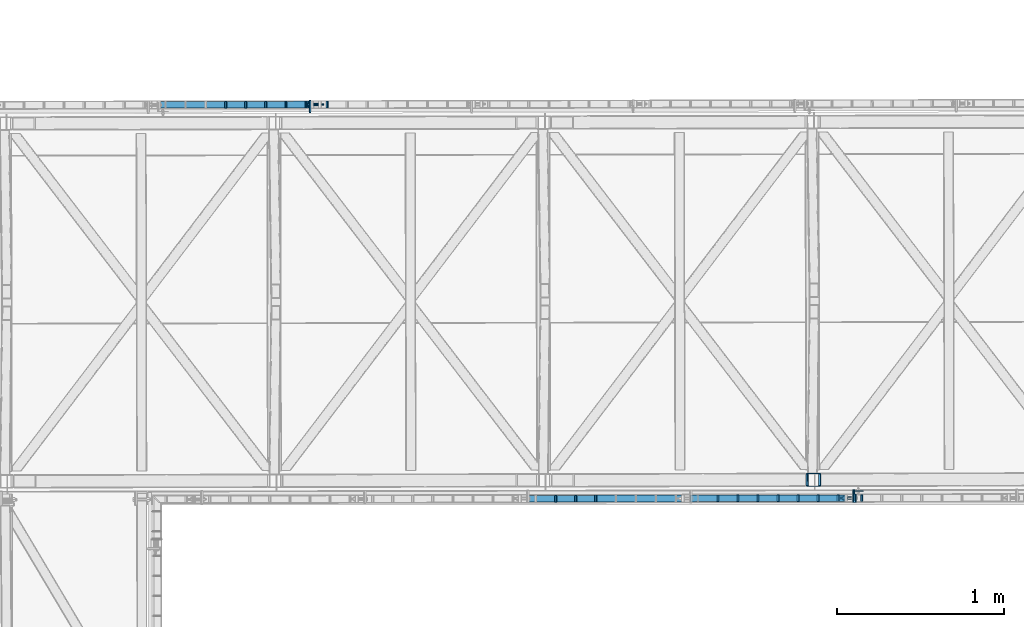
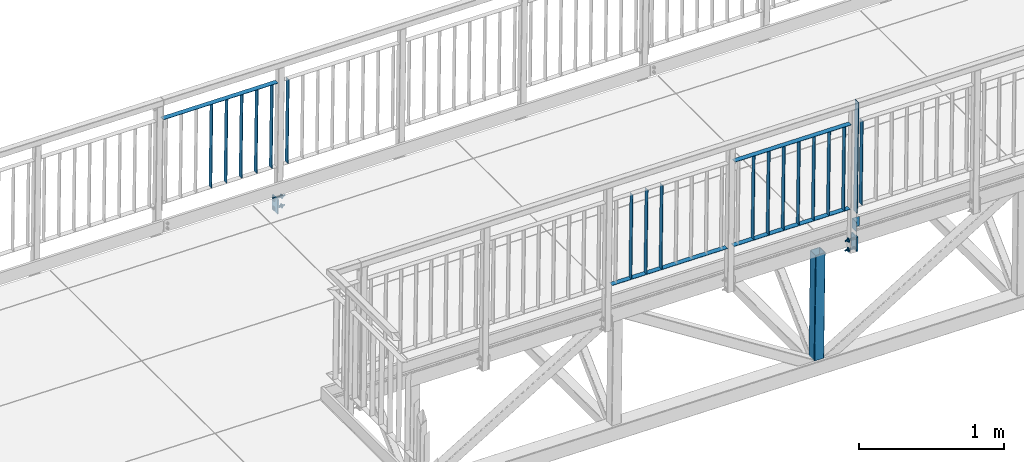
# One storey, part 115 of 169: 26 discrete accessories, 2 mechanical fasteners, 3 elements without a shape of their own.
"""IFC2X3 building model written with IfcOpenShell, lengths in millimetres."""

from ifc_helpers import new_model, si_unit, frame, origin_with_axes, origin_2d_with_axis, place, context, subcontext, project, spatial, polyline, rectangle, hollow_rectangle, circle, l_section, outline, extrude, boolean, clip, halfspace, source, transform, mapped, material, type_object, element, aggregate, save


model = new_model("IFC2X3")

# Units and contexts
model_context = context("Model", 3, precision=1e-05, world=origin_with_axes())
body_context = subcontext(model_context, "Body", "Model", "MODEL_VIEW")
ifc_project = project(units=[si_unit("LENGTHUNIT", "METRE", prefix="MILLI"), si_unit("AREAUNIT", "SQUARE_METRE"), si_unit("VOLUMEUNIT", "CUBIC_METRE"), si_unit("MASSUNIT", "GRAM", prefix="KILO"), si_unit("TIMEUNIT", "SECOND"), si_unit("PLANEANGLEUNIT", "RADIAN"), si_unit("SOLIDANGLEUNIT", "STERADIAN"), si_unit("THERMODYNAMICTEMPERATUREUNIT", "DEGREE_CELSIUS"), si_unit("LUMINOUSINTENSITYUNIT", "LUMEN")], contexts=[model_context])

# Site, building, storey
site_placement = place(None, origin_with_axes())
site = spatial("IfcSite", under=ifc_project, at=site_placement, Name="Undefined", CompositionType="ELEMENT")
building_placement = place(site_placement, origin_with_axes())
building = spatial("IfcBuilding", under=site, at=building_placement, Name="Undefined", CompositionType="ELEMENT")
storey_placement = place(building_placement, origin_with_axes())
storey = spatial("IfcBuildingStorey", under=building, at=storey_placement, Name="Undefined", CompositionType="ELEMENT", Elevation=0.0)

# Assembly, discrete accessory
assembly_1_placement = place(storey_placement, origin_with_axes())
assembly_1 = element("IfcElementAssembly", 1, at=assembly_1_placement, inside=storey, Name="Steel Assembly", AssemblyPlace="NOTDEFINED", PredefinedType="RIGID_FRAME")
ifc_material_1 = material(Name="STEEL/S235")
discrete_accessory_type_1 = type_object("IfcDiscreteAccessoryType", Name="BLACHA")
discrete_accessory_1_placement = place(assembly_1_placement, frame((11154.2828127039, 2325.81905754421, 13812.4025417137), z_axis=(0.9999174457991, 0.00186469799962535, -0.0127131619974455), x_axis=(-0.0018648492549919, 0.999998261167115, -4.2996762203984e-08)))
discrete_accessory_1 = element("IfcDiscreteAccessory", 2, at=discrete_accessory_1_placement, type_object=discrete_accessory_type_1, material=ifc_material_1, Name="BLACHA", ObjectType="BL10*120", context=body_context, shape_type="SweptSolid", body=[
    extrude(outline(polyline([(-5.35749222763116e-11, -59.9999999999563), (5.3567816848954e-11, 59.9999999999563), (75.0000002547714, 59.9999999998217), (75.0000002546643, -60.0000000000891), (-5.35749222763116e-11, -59.9999999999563)])), frame((-1.81898926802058e-12, -1.18000176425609e-16, -5.00000000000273), z_axis=(0.0, 0.0, 1.0), x_axis=(1.0, 0.0, 0.0)), (0.0, 0.0, 1.0), 10.0),
])

assembly_2_placement = place(storey_placement, origin_with_axes())
assembly_2 = element("IfcElementAssembly", 3, at=assembly_2_placement, inside=storey, Name="Steel Assembly", AssemblyPlace="NOTDEFINED", PredefinedType="RIGID_FRAME")
discrete_accessory_2_placement = place(assembly_2_placement, frame((14408.0866472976, -3.11713038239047, 14030.1093879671), z_axis=(0.9999174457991, 0.00186469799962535, -0.0127131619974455), x_axis=(-0.0018648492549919, 0.999998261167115, -4.2996762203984e-08)))
discrete_accessory_2 = element("IfcDiscreteAccessory", 4, at=discrete_accessory_2_placement, type_object=discrete_accessory_type_1, material=ifc_material_1, Name="BLACHA", ObjectType="BL5*50", context=body_context, shape_type="SweptSolid", body=[
    extrude(outline(polyline([(0.0, 0.0), (50.0000000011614, 3.27418092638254e-11), (50.0000000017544, 926.000000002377), (3.10365066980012e-08, 926.000000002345), (0.0, 0.0)])), frame((6.80888809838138e-19, -2.87858853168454e-21, -2.49999999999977), z_axis=(0.0, 0.0, 1.0), x_axis=(1.0, 0.0, 0.0)), (0.0, 0.0, 1.0), 5.0),
])

# Discrete accessory
discrete_accessory_3_placement = place(assembly_1_placement, frame((14407.1538739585, 71.8812501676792, 13771.0985326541), z_axis=(-0.999917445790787, -0.00186469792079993, 0.0127131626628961), x_axis=(0.00186484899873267, -0.999998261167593, 4.28757666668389e-08)))
discrete_accessory_3 = element("IfcDiscreteAccessory", 5, at=discrete_accessory_3_placement, type_object=discrete_accessory_type_1, material=ifc_material_1, Name="BLACHA", ObjectType="BL10*120", context=body_context, shape_type="SweptSolid", body=[
    extrude(outline(polyline([(75.0000002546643, -60.0000000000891), (-5.35749222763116e-11, -59.9999999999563), (5.3567816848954e-11, 59.9999999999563), (75.0000002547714, 59.9999999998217), (75.0000002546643, -60.0000000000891)])), frame((-1.81898926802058e-12, -1.18000176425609e-16, -5.00000000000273), z_axis=(0.0, 0.0, 1.0), x_axis=(1.0, 0.0, 0.0)), (0.0, 0.0, 1.0), 10.0),
])

discrete_accessory_type_2 = type_object("IfcDiscreteAccessoryType", Name="BEAM")
discrete_accessory_4_placement = place(assembly_2_placement, frame((14434.5091746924, 34.9322069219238, 13950.7661591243), z_axis=(0.9999174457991, 0.00186469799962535, -0.0127131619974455), x_axis=(-0.012713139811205, -2.37511238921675e-05, -0.999919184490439)))
discrete_accessory_4 = element("IfcDiscreteAccessory", 6, at=discrete_accessory_4_placement, type_object=discrete_accessory_type_2, material=ifc_material_1, Name="BEAM", ObjectType="L60*3", context=body_context, shape_type="SweptSolid", body=[
    extrude(l_section(Depth=60.0, Width=60.0, Thickness=3.0, FilletRadius=4.5, at=origin_2d_with_axis()), frame((79.9999999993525, -4.5446979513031e-13, -4.53637127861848e-13), z_axis=(-1.0, -3.46944695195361e-18, -1.38777878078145e-17), x_axis=(1.73472347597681e-18, -1.0, 0.0)), (0.0, 0.0, 1.0), 80.0),
])

ifc_material_2 = material(Name="STEEL/S355")
discrete_accessory_5_placement = place(assembly_1_placement, frame((14159.4514257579, 131.419385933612, 12774.1655168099), z_axis=(-0.999917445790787, -0.00186469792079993, 0.0127131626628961), x_axis=(0.012713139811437, 2.3750999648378e-05, 0.999919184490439)))
discrete_accessory_5 = element("IfcDiscreteAccessory", 7, at=discrete_accessory_5_placement, type_object=discrete_accessory_type_2, material=ifc_material_2, Name="BEAM", ObjectType="K80/4", context=body_context, shape_type="Clipping", body=[
    clip(clip(extrude(hollow_rectangle(XDim=80.0, YDim=80.0, WallThickness=4.0, InnerFilletRadius=4.0, OuterFilletRadius=8.0, at=origin_2d_with_axis()), frame((940.000112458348, 4.54747487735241e-13, 0.0), z_axis=(-1.0, -3.46944695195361e-18, -1.38777878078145e-17), x_axis=(1.73472347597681e-18, -1.0, 0.0)), (0.0, 0.0, 1.0), 880.0), halfspace(frame((940.000112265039, -6.72889655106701e-09, 999.999999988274), z_axis=(-1.0, -3.46944695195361e-18, -1.38777878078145e-17), x_axis=(1.73472347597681e-18, -1.0, 0.0)), True)), halfspace(frame((60.0001122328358, 8.14088707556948e-09, 1000.00000001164), z_axis=(1.0, 0.0, 0.0), x_axis=(0.0, 1.0, 0.0)), True)),
])

aggregate(assembly_1, [discrete_accessory_1, discrete_accessory_3, discrete_accessory_5])

discrete_accessory_type_3 = type_object("IfcDiscreteAccessoryType", Name="PORĘCZ")
discrete_accessory_6_placement = place(assembly_2_placement, frame((14459.4416410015, 21.9787216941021, 14930.5286761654), z_axis=(-0.0018648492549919, 0.999998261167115, -4.2996762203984e-08), x_axis=(-0.012713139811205, -2.37511238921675e-05, -0.999919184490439)))
discrete_accessory_6 = element("IfcDiscreteAccessory", 8, at=discrete_accessory_6_placement, type_object=discrete_accessory_type_3, material=ifc_material_1, Name="PORĘCZ", ObjectType="BL40*3", context=body_context, shape_type="Clipping", body=[
    clip(clip(extrude(rectangle(XDim=3.0, YDim=40.0, at=origin_2d_with_axis()), frame((848.500000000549, 1.47191286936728e-15, -8.89750592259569e-16), z_axis=(-1.0, -3.46944695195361e-18, -1.38777878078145e-17), x_axis=(1.73472347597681e-18, -1.0, 0.0)), (0.0, 0.0, 1.0), 702.0), halfspace(frame((848.499999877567, 4.522007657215e-09, 1000.00000000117), z_axis=(-1.0, -3.46944695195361e-18, -1.38777878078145e-17), x_axis=(1.73472347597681e-18, -1.0, 0.0)), True)), halfspace(frame((146.499999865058, 4.97311702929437e-09, 1000.00000000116), z_axis=(1.0, 0.0, 0.0), x_axis=(0.0, 1.0, 0.0)), True)),
])

discrete_accessory_7_placement = place(assembly_2_placement, frame((14412.7508165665, 21.8916439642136, 14786.1105939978), z_axis=(-0.012713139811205, -2.37511238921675e-05, -0.999919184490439), x_axis=(-0.999917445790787, -0.00186469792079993, 0.0127131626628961)))
discrete_accessory_7 = element("IfcDiscreteAccessory", 9, at=discrete_accessory_7_placement, type_object=discrete_accessory_type_3, material=ifc_material_1, Name="PORĘCZ", ObjectType="BL40*3", context=body_context, shape_type="CSG", body=[
    boolean("DIFFERENCE", boolean("DIFFERENCE", extrude(outline(polyline([(972.599252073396, -19.9999999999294), (47.599252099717, -19.9999999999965), (47.5992520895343, 20.0000000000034), (972.599252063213, 20.0000000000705), (972.599252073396, -19.9999999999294)])), frame((1.81898940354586e-12, -1.77635442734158e-15, -1.50000000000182), z_axis=(0.0, 0.0, 1.0), x_axis=(1.0, 0.0, 0.0)), (0.0, 0.0, 1.0), 3.0), extrude(rectangle(XDim=51.0, YDim=51.0, at=origin_2d_with_axis()), frame((998.099252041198, 3.51939400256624e-08, -140.00000001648), z_axis=(0.0, 0.0, 1.0), x_axis=(1.0, 0.0, 0.0)), (0.0, 0.0, 1.0), 280.0)), halfspace(frame((47.5992518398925, 1000.00000001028, -5.15865394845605e-09), z_axis=(1.0, 0.0, 0.0), x_axis=(-2.54700353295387e-10, 0.0, -1.0)), True)),
])

discrete_accessory_8_placement = place(assembly_2_placement, frame((14320.0524011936, 21.7187813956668, 14932.3009004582), z_axis=(-0.0018648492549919, 0.999998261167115, -4.2996762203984e-08), x_axis=(-0.012713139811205, -2.37511238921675e-05, -0.999919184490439)))
discrete_accessory_8 = element("IfcDiscreteAccessory", 10, at=discrete_accessory_8_placement, type_object=discrete_accessory_type_3, material=ifc_material_1, Name="PORĘCZ", ObjectType="BL40*3", context=body_context, shape_type="Clipping", body=[
    clip(clip(extrude(rectangle(XDim=3.0, YDim=40.0, at=origin_2d_with_axis()), frame((848.500000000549, 1.47191286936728e-15, -8.89750592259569e-16), z_axis=(-1.0, -3.46944695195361e-18, -1.38777878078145e-17), x_axis=(1.73472347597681e-18, -1.0, 0.0)), (0.0, 0.0, 1.0), 702.0), halfspace(frame((848.499999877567, 4.522007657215e-09, 1000.00000000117), z_axis=(-1.0, -3.46944695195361e-18, -1.38777878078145e-17), x_axis=(1.73472347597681e-18, -1.0, 0.0)), True)), halfspace(frame((146.499999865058, 4.97311702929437e-09, 1000.00000000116), z_axis=(1.0, 0.0, 0.0), x_axis=(0.0, 1.0, 0.0)), True)),
])

discrete_accessory_9_placement = place(assembly_2_placement, frame((14200.0623076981, 21.4950176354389, 14933.826479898), z_axis=(-0.0018648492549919, 0.999998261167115, -4.2996762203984e-08), x_axis=(-0.012713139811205, -2.37511238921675e-05, -0.999919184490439)))
discrete_accessory_9 = element("IfcDiscreteAccessory", 11, at=discrete_accessory_9_placement, type_object=discrete_accessory_type_3, material=ifc_material_1, Name="PORĘCZ", ObjectType="BL40*3", context=body_context, shape_type="Clipping", body=[
    clip(clip(extrude(rectangle(XDim=3.0, YDim=40.0, at=origin_2d_with_axis()), frame((848.500000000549, 1.47191286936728e-15, -8.89750592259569e-16), z_axis=(-1.0, -3.46944695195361e-18, -1.38777878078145e-17), x_axis=(1.73472347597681e-18, -1.0, 0.0)), (0.0, 0.0, 1.0), 702.0), halfspace(frame((848.499999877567, 4.522007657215e-09, 1000.00000000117), z_axis=(-1.0, -3.46944695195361e-18, -1.38777878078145e-17), x_axis=(1.73472347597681e-18, -1.0, 0.0)), True)), halfspace(frame((146.499999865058, 4.97311702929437e-09, 1000.00000000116), z_axis=(1.0, 0.0, 0.0), x_axis=(0.0, 1.0, 0.0)), True)),
])

discrete_accessory_10_placement = place(assembly_2_placement, frame((14080.0722142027, 21.2712538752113, 14935.3520593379), z_axis=(-0.0018648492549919, 0.999998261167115, -4.2996762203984e-08), x_axis=(-0.012713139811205, -2.37511238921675e-05, -0.999919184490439)))
discrete_accessory_10 = element("IfcDiscreteAccessory", 12, at=discrete_accessory_10_placement, type_object=discrete_accessory_type_3, material=ifc_material_1, Name="PORĘCZ", ObjectType="BL40*3", context=body_context, shape_type="Clipping", body=[
    clip(clip(extrude(rectangle(XDim=3.0, YDim=40.0, at=origin_2d_with_axis()), frame((848.500000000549, 1.47191286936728e-15, -8.89750592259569e-16), z_axis=(-1.0, -3.46944695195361e-18, -1.38777878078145e-17), x_axis=(1.73472347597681e-18, -1.0, 0.0)), (0.0, 0.0, 1.0), 702.0), halfspace(frame((848.499999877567, 4.522007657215e-09, 1000.00000000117), z_axis=(-1.0, -3.46944695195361e-18, -1.38777878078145e-17), x_axis=(1.73472347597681e-18, -1.0, 0.0)), True)), halfspace(frame((146.499999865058, 4.97311702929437e-09, 1000.00000000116), z_axis=(1.0, 0.0, 0.0), x_axis=(0.0, 1.0, 0.0)), True)),
])

discrete_accessory_11_placement = place(assembly_2_placement, frame((13960.0821207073, 21.0474901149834, 14936.8776387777), z_axis=(-0.0018648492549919, 0.999998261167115, -4.2996762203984e-08), x_axis=(-0.012713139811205, -2.37511238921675e-05, -0.999919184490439)))
discrete_accessory_11 = element("IfcDiscreteAccessory", 13, at=discrete_accessory_11_placement, type_object=discrete_accessory_type_3, material=ifc_material_1, Name="PORĘCZ", ObjectType="BL40*3", context=body_context, shape_type="Clipping", body=[
    clip(clip(extrude(rectangle(XDim=3.0, YDim=40.0, at=origin_2d_with_axis()), frame((848.500000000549, 1.47191286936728e-15, -8.89750592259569e-16), z_axis=(-1.0, -3.46944695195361e-18, -1.38777878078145e-17), x_axis=(1.73472347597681e-18, -1.0, 0.0)), (0.0, 0.0, 1.0), 702.0), halfspace(frame((848.499999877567, 4.522007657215e-09, 1000.00000000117), z_axis=(-1.0, -3.46944695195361e-18, -1.38777878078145e-17), x_axis=(1.73472347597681e-18, -1.0, 0.0)), True)), halfspace(frame((146.499999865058, 4.97311702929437e-09, 1000.00000000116), z_axis=(1.0, 0.0, 0.0), x_axis=(0.0, 1.0, 0.0)), True)),
])

discrete_accessory_12_placement = place(assembly_2_placement, frame((13840.0920272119, 20.8237263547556, 14938.4032182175), z_axis=(-0.0018648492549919, 0.999998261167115, -4.2996762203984e-08), x_axis=(-0.012713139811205, -2.37511238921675e-05, -0.999919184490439)))
discrete_accessory_12 = element("IfcDiscreteAccessory", 14, at=discrete_accessory_12_placement, type_object=discrete_accessory_type_3, material=ifc_material_1, Name="PORĘCZ", ObjectType="BL40*3", context=body_context, shape_type="Clipping", body=[
    clip(clip(extrude(rectangle(XDim=3.0, YDim=40.0, at=origin_2d_with_axis()), frame((848.500000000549, 1.47191286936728e-15, -8.89750592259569e-16), z_axis=(-1.0, -3.46944695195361e-18, -1.38777878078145e-17), x_axis=(1.73472347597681e-18, -1.0, 0.0)), (0.0, 0.0, 1.0), 702.0), halfspace(frame((848.499999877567, 4.522007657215e-09, 1000.00000000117), z_axis=(-1.0, -3.46944695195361e-18, -1.38777878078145e-17), x_axis=(1.73472347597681e-18, -1.0, 0.0)), True)), halfspace(frame((146.499999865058, 4.97311702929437e-09, 1000.00000000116), z_axis=(1.0, 0.0, 0.0), x_axis=(0.0, 1.0, 0.0)), True)),
])

discrete_accessory_13_placement = place(assembly_2_placement, frame((13720.1019337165, 20.5999625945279, 14939.9287976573), z_axis=(-0.0018648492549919, 0.999998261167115, -4.2996762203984e-08), x_axis=(-0.012713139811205, -2.37511238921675e-05, -0.999919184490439)))
discrete_accessory_13 = element("IfcDiscreteAccessory", 15, at=discrete_accessory_13_placement, type_object=discrete_accessory_type_3, material=ifc_material_1, Name="PORĘCZ", ObjectType="BL40*3", context=body_context, shape_type="Clipping", body=[
    clip(clip(extrude(rectangle(XDim=3.0, YDim=40.0, at=origin_2d_with_axis()), frame((848.500000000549, 1.47191286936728e-15, -8.89750592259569e-16), z_axis=(-1.0, -3.46944695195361e-18, -1.38777878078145e-17), x_axis=(1.73472347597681e-18, -1.0, 0.0)), (0.0, 0.0, 1.0), 702.0), halfspace(frame((848.499999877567, 4.522007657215e-09, 1000.00000000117), z_axis=(-1.0, -3.46944695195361e-18, -1.38777878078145e-17), x_axis=(1.73472347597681e-18, -1.0, 0.0)), True)), halfspace(frame((146.499999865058, 4.97311702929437e-09, 1000.00000000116), z_axis=(1.0, 0.0, 0.0), x_axis=(0.0, 1.0, 0.0)), True)),
])

discrete_accessory_14_placement = place(assembly_2_placement, frame((13600.1118402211, 20.3761988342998, 14941.4543770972), z_axis=(-0.0018648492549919, 0.999998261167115, -4.2996762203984e-08), x_axis=(-0.012713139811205, -2.37511238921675e-05, -0.999919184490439)))
discrete_accessory_14 = element("IfcDiscreteAccessory", 16, at=discrete_accessory_14_placement, type_object=discrete_accessory_type_3, material=ifc_material_1, Name="PORĘCZ", ObjectType="BL40*3", context=body_context, shape_type="Clipping", body=[
    clip(clip(extrude(rectangle(XDim=3.0, YDim=40.0, at=origin_2d_with_axis()), frame((848.500000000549, 1.47191286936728e-15, -8.89750592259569e-16), z_axis=(-1.0, -3.46944695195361e-18, -1.38777878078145e-17), x_axis=(1.73472347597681e-18, -1.0, 0.0)), (0.0, 0.0, 1.0), 702.0), halfspace(frame((848.499999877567, 4.522007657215e-09, 1000.00000000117), z_axis=(-1.0, -3.46944695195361e-18, -1.38777878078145e-17), x_axis=(1.73472347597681e-18, -1.0, 0.0)), True)), halfspace(frame((146.499999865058, 4.97311702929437e-09, 1000.00000000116), z_axis=(1.0, 0.0, 0.0), x_axis=(0.0, 1.0, 0.0)), True)),
])

discrete_accessory_15_placement = place(assembly_2_placement, frame((14403.7880530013, 21.8748994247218, 14081.1675689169), z_axis=(-0.012713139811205, -2.37511238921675e-05, -0.999919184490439), x_axis=(-0.999917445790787, -0.00186469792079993, 0.0127131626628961)))
discrete_accessory_15 = element("IfcDiscreteAccessory", 17, at=discrete_accessory_15_placement, type_object=discrete_accessory_type_3, material=ifc_material_1, Name="PORĘCZ", ObjectType="BL40*3", context=body_context, shape_type="CSG", body=[
    boolean("DIFFERENCE", boolean("DIFFERENCE", extrude(outline(polyline([(972.599252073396, -19.9999999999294), (47.599252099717, -19.9999999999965), (47.5992520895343, 20.0000000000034), (972.599252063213, 20.0000000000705), (972.599252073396, -19.9999999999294)])), frame((1.81898940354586e-12, -1.77635442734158e-15, -1.50000000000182), z_axis=(0.0, 0.0, 1.0), x_axis=(1.0, 0.0, 0.0)), (0.0, 0.0, 1.0), 3.0), extrude(rectangle(XDim=51.0, YDim=51.0, at=origin_2d_with_axis()), frame((998.099252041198, 3.51939400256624e-08, -140.00000001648), z_axis=(0.0, 0.0, 1.0), x_axis=(1.0, 0.0, 0.0)), (0.0, 0.0, 1.0), 280.0)), halfspace(frame((47.5992518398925, 1000.00000001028, -5.15865394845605e-09), z_axis=(1.0, 0.0, 0.0), x_axis=(-2.54700353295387e-10, 0.0, -1.0)), True)),
])

discrete_accessory_16_placement = place(assembly_2_placement, frame((12869.5729022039, 19.013851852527, 14950.7426037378), z_axis=(-0.0018648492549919, 0.999998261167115, -4.2996762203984e-08), x_axis=(-0.012713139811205, -2.37511238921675e-05, -0.999919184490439)))
discrete_accessory_16 = element("IfcDiscreteAccessory", 18, at=discrete_accessory_16_placement, type_object=discrete_accessory_type_3, material=ifc_material_1, Name="PORĘCZ", ObjectType="BL40*3", context=body_context, shape_type="Clipping", body=[
    clip(clip(extrude(rectangle(XDim=3.0, YDim=40.0, at=origin_2d_with_axis()), frame((848.500000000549, 1.47191286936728e-15, -8.89750592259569e-16), z_axis=(-1.0, -3.46944695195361e-18, -1.38777878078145e-17), x_axis=(1.73472347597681e-18, -1.0, 0.0)), (0.0, 0.0, 1.0), 702.0), halfspace(frame((848.499999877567, 4.522007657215e-09, 1000.00000000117), z_axis=(-1.0, -3.46944695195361e-18, -1.38777878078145e-17), x_axis=(1.73472347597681e-18, -1.0, 0.0)), True)), halfspace(frame((146.499999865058, 4.97311702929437e-09, 1000.00000000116), z_axis=(1.0, 0.0, 0.0), x_axis=(0.0, 1.0, 0.0)), True)),
])

discrete_accessory_17_placement = place(assembly_2_placement, frame((12749.5828087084, 18.7900880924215, 14952.2681831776), z_axis=(-0.0018648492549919, 0.999998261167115, -4.2996762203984e-08), x_axis=(-0.012713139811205, -2.37511238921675e-05, -0.999919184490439)))
discrete_accessory_17 = element("IfcDiscreteAccessory", 19, at=discrete_accessory_17_placement, type_object=discrete_accessory_type_3, material=ifc_material_1, Name="PORĘCZ", ObjectType="BL40*3", context=body_context, shape_type="Clipping", body=[
    clip(clip(extrude(rectangle(XDim=3.0, YDim=40.0, at=origin_2d_with_axis()), frame((848.500000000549, 1.47191286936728e-15, -8.89750592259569e-16), z_axis=(-1.0, -3.46944695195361e-18, -1.38777878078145e-17), x_axis=(1.73472347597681e-18, -1.0, 0.0)), (0.0, 0.0, 1.0), 702.0), halfspace(frame((848.499999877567, 4.522007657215e-09, 1000.00000000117), z_axis=(-1.0, -3.46944695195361e-18, -1.38777878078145e-17), x_axis=(1.73472347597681e-18, -1.0, 0.0)), True)), halfspace(frame((146.499999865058, 4.97311702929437e-09, 1000.00000000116), z_axis=(1.0, 0.0, 0.0), x_axis=(0.0, 1.0, 0.0)), True)),
])

discrete_accessory_18_placement = place(assembly_2_placement, frame((12629.5927152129, 18.5663243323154, 14953.7937626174), z_axis=(-0.0018648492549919, 0.999998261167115, -4.2996762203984e-08), x_axis=(-0.012713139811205, -2.37511238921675e-05, -0.999919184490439)))
discrete_accessory_18 = element("IfcDiscreteAccessory", 20, at=discrete_accessory_18_placement, type_object=discrete_accessory_type_3, material=ifc_material_1, Name="PORĘCZ", ObjectType="BL40*3", context=body_context, shape_type="Clipping", body=[
    clip(clip(extrude(rectangle(XDim=3.0, YDim=40.0, at=origin_2d_with_axis()), frame((848.500000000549, 1.47191286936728e-15, -8.89750592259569e-16), z_axis=(-1.0, -3.46944695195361e-18, -1.38777878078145e-17), x_axis=(1.73472347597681e-18, -1.0, 0.0)), (0.0, 0.0, 1.0), 702.0), halfspace(frame((848.499999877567, 4.522007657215e-09, 1000.00000000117), z_axis=(-1.0, -3.46944695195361e-18, -1.38777878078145e-17), x_axis=(1.73472347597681e-18, -1.0, 0.0)), True)), halfspace(frame((146.499999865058, 4.97311702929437e-09, 1000.00000000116), z_axis=(1.0, 0.0, 0.0), x_axis=(0.0, 1.0, 0.0)), True)),
])

discrete_accessory_19_placement = place(assembly_2_placement, frame((13436.2686803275, 20.0706190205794, 14093.4688149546), z_axis=(-0.012713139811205, -2.37511238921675e-05, -0.999919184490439), x_axis=(-0.999917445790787, -0.00186469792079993, 0.0127131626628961)))
discrete_accessory_19 = element("IfcDiscreteAccessory", 21, at=discrete_accessory_19_placement, type_object=discrete_accessory_type_3, material=ifc_material_1, Name="PORĘCZ", ObjectType="BL40*3", context=body_context, shape_type="CSG", body=[
    boolean("DIFFERENCE", boolean("DIFFERENCE", boolean("DIFFERENCE", extrude(outline(polyline([(972.599252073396, -19.9999999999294), (55.0000000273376, -19.999999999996), (55.0000000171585, 20.000000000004), (972.599252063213, 20.0000000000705), (972.599252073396, -19.9999999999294)])), frame((1.81898940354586e-12, -1.77635442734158e-15, -1.50000000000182), z_axis=(0.0, 0.0, 1.0), x_axis=(1.0, 0.0, 0.0)), (0.0, 0.0, 1.0), 3.0), extrude(rectangle(XDim=51.0, YDim=51.0, at=origin_2d_with_axis()), frame((-5.94487782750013e-08, -4.65977194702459e-09, -139.999999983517), z_axis=(0.0, 0.0, 1.0), x_axis=(1.0, 0.0, 0.0)), (0.0, 0.0, 1.0), 280.0)), extrude(rectangle(XDim=51.0, YDim=51.0, at=origin_2d_with_axis()), frame((998.099252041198, 3.51939400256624e-08, -140.00000001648), z_axis=(0.0, 0.0, 1.0), x_axis=(1.0, 0.0, 0.0)), (0.0, 0.0, 1.0), 280.0)), halfspace(frame((54.9999997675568, 1000.00000000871, -5.03860064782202e-09), z_axis=(1.0, 0.0, 0.0), x_axis=(-2.54700353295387e-10, 0.0, -1.0)), True)),
])

# Assembly, discrete accessories, mechanical fastener
assembly_3_placement = place(storey_placement, origin_with_axes())
assembly_3 = element("IfcElementAssembly", 22, at=assembly_3_placement, inside=storey, Name="Steel Assembly", AssemblyPlace="NOTDEFINED", PredefinedType="RIGID_FRAME")
discrete_accessory_20_placement = place(assembly_3_placement, frame((10230.4762768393, 2374.09642527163, 14839.2288598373), z_axis=(-0.012713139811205, -2.37511238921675e-05, -0.999919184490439), x_axis=(0.9999174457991, 0.00186469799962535, -0.0127131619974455)))
discrete_accessory_20 = element("IfcDiscreteAccessory", 23, at=discrete_accessory_20_placement, type_object=discrete_accessory_type_3, material=ifc_material_1, Name="PORĘCZ", ObjectType="BL40*3", context=body_context, shape_type="CSG", body=[
    boolean("DIFFERENCE", boolean("DIFFERENCE", boolean("DIFFERENCE", extrude(outline(polyline([(29.999999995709, 20.0000000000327), (941.194458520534, 20.0000000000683), (941.194458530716, -19.9999999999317), (29.9999999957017, -20.0000000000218), (29.999999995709, 20.0000000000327)])), frame((1.81898940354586e-12, -1.77635442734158e-15, -1.50000000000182), z_axis=(0.0, 0.0, 1.0), x_axis=(1.0, 0.0, 0.0)), (0.0, 0.0, 1.0), 3.0), extrude(rectangle(XDim=51.0, YDim=51.0, at=origin_2d_with_axis()), frame((-5.94487782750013e-08, -4.65977194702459e-09, -139.999999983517), z_axis=(0.0, 0.0, 1.0), x_axis=(1.0, 0.0, 0.0)), (0.0, 0.0, 1.0), 280.0)), extrude(rectangle(XDim=51.0, YDim=51.0, at=origin_2d_with_axis()), frame((966.694458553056, -6.96000839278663e-09, -139.999999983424), z_axis=(0.0, 0.0, 1.0), x_axis=(1.0, 0.0, 0.0)), (0.0, 0.0, 1.0), 280.0)), halfspace(frame((29.9999999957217, 999.999999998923, 0.0), z_axis=(1.0, 0.0, 0.0), x_axis=(-2.54700353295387e-10, 0.0, -1.0)), True)),
])
discrete_accessory_21_placement = place(assembly_3_placement, frame((10655.6319622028, 2374.88928391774, 14978.8350596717), z_axis=(0.00186484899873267, -0.999998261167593, 4.28757666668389e-08), x_axis=(-0.012713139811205, -2.37511238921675e-05, -0.999919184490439)))
discrete_accessory_21 = element("IfcDiscreteAccessory", 24, at=discrete_accessory_21_placement, type_object=discrete_accessory_type_3, material=ifc_material_1, Name="PORĘCZ", ObjectType="BL40*3", context=body_context, shape_type="Clipping", body=[
    clip(clip(extrude(rectangle(XDim=3.0, YDim=40.0, at=origin_2d_with_axis()), frame((848.500000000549, 1.47191286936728e-15, -8.89750592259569e-16), z_axis=(-1.0, -3.46944695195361e-18, -1.38777878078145e-17), x_axis=(1.73472347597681e-18, -1.0, 0.0)), (0.0, 0.0, 1.0), 702.0), halfspace(frame((848.499999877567, 4.522007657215e-09, 1000.00000000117), z_axis=(-1.0, -3.46944695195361e-18, -1.38777878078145e-17), x_axis=(1.73472347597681e-18, -1.0, 0.0)), True)), halfspace(frame((146.499999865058, 4.97311702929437e-09, 1000.00000000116), z_axis=(1.0, 0.0, 0.0), x_axis=(0.0, 1.0, 0.0)), True)),
])
discrete_accessory_22_placement = place(assembly_3_placement, frame((10775.6220556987, 2375.1130476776, 14977.309480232), z_axis=(0.00186484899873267, -0.999998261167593, 4.28757666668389e-08), x_axis=(-0.012713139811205, -2.37511238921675e-05, -0.999919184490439)))
discrete_accessory_22 = element("IfcDiscreteAccessory", 25, at=discrete_accessory_22_placement, type_object=discrete_accessory_type_3, material=ifc_material_1, Name="PORĘCZ", ObjectType="BL40*3", context=body_context, shape_type="Clipping", body=[
    clip(clip(extrude(rectangle(XDim=3.0, YDim=40.0, at=origin_2d_with_axis()), frame((848.500000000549, 1.47191286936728e-15, -8.89750592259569e-16), z_axis=(-1.0, -3.46944695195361e-18, -1.38777878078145e-17), x_axis=(1.73472347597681e-18, -1.0, 0.0)), (0.0, 0.0, 1.0), 702.0), halfspace(frame((848.499999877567, 4.522007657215e-09, 1000.00000000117), z_axis=(-1.0, -3.46944695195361e-18, -1.38777878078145e-17), x_axis=(1.73472347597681e-18, -1.0, 0.0)), True)), halfspace(frame((146.499999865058, 4.97311702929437e-09, 1000.00000000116), z_axis=(1.0, 0.0, 0.0), x_axis=(0.0, 1.0, 0.0)), True)),
])
discrete_accessory_23_placement = place(assembly_3_placement, frame((10895.6121491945, 2375.33681143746, 14975.7839007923), z_axis=(0.00186484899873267, -0.999998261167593, 4.28757666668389e-08), x_axis=(-0.012713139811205, -2.37511238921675e-05, -0.999919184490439)))
discrete_accessory_23 = element("IfcDiscreteAccessory", 26, at=discrete_accessory_23_placement, type_object=discrete_accessory_type_3, material=ifc_material_1, Name="PORĘCZ", ObjectType="BL40*3", context=body_context, shape_type="Clipping", body=[
    clip(clip(extrude(rectangle(XDim=3.0, YDim=40.0, at=origin_2d_with_axis()), frame((848.500000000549, 1.47191286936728e-15, -8.89750592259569e-16), z_axis=(-1.0, -3.46944695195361e-18, -1.38777878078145e-17), x_axis=(1.73472347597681e-18, -1.0, 0.0)), (0.0, 0.0, 1.0), 702.0), halfspace(frame((848.499999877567, 4.522007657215e-09, 1000.00000000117), z_axis=(-1.0, -3.46944695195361e-18, -1.38777878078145e-17), x_axis=(1.73472347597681e-18, -1.0, 0.0)), True)), halfspace(frame((146.499999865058, 4.97311702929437e-09, 1000.00000000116), z_axis=(1.0, 0.0, 0.0), x_axis=(0.0, 1.0, 0.0)), True)),
])
discrete_accessory_24_placement = place(assembly_3_placement, frame((11015.6022426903, 2375.56057519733, 14974.2583213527), z_axis=(0.00186484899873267, -0.999998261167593, 4.28757666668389e-08), x_axis=(-0.012713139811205, -2.37511238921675e-05, -0.999919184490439)))
discrete_accessory_24 = element("IfcDiscreteAccessory", 27, at=discrete_accessory_24_placement, type_object=discrete_accessory_type_3, material=ifc_material_1, Name="PORĘCZ", ObjectType="BL40*3", context=body_context, shape_type="Clipping", body=[
    clip(clip(extrude(rectangle(XDim=3.0, YDim=40.0, at=origin_2d_with_axis()), frame((848.500000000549, 1.47191286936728e-15, -8.89750592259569e-16), z_axis=(-1.0, -3.46944695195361e-18, -1.38777878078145e-17), x_axis=(1.73472347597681e-18, -1.0, 0.0)), (0.0, 0.0, 1.0), 702.0), halfspace(frame((848.499999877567, 4.522007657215e-09, 1000.00000000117), z_axis=(-1.0, -3.46944695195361e-18, -1.38777878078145e-17), x_axis=(1.73472347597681e-18, -1.0, 0.0)), True)), halfspace(frame((146.499999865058, 4.97311702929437e-09, 1000.00000000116), z_axis=(1.0, 0.0, 0.0), x_axis=(0.0, 1.0, 0.0)), True)),
])
discrete_accessory_25_placement = place(assembly_3_placement, frame((11135.5923361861, 2375.78433895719, 14972.732741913), z_axis=(0.00186484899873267, -0.999998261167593, 4.28757666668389e-08), x_axis=(-0.012713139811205, -2.37511238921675e-05, -0.999919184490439)))
discrete_accessory_25 = element("IfcDiscreteAccessory", 28, at=discrete_accessory_25_placement, type_object=discrete_accessory_type_3, material=ifc_material_1, Name="PORĘCZ", ObjectType="BL40*3", context=body_context, shape_type="Clipping", body=[
    clip(clip(extrude(rectangle(XDim=3.0, YDim=40.0, at=origin_2d_with_axis()), frame((848.500000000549, 1.47191286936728e-15, -8.89750592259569e-16), z_axis=(-1.0, -3.46944695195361e-18, -1.38777878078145e-17), x_axis=(1.73472347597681e-18, -1.0, 0.0)), (0.0, 0.0, 1.0), 702.0), halfspace(frame((848.499999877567, 4.522007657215e-09, 1000.00000000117), z_axis=(-1.0, -3.46944695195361e-18, -1.38777878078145e-17), x_axis=(1.73472347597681e-18, -1.0, 0.0)), True)), halfspace(frame((146.499999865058, 4.97311702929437e-09, 1000.00000000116), z_axis=(1.0, 0.0, 0.0), x_axis=(0.0, 1.0, 0.0)), True)),
])
discrete_accessory_26_placement = place(assembly_3_placement, frame((11262.2763356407, 2376.02058586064, 14971.1220547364), z_axis=(0.00186484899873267, -0.999998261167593, 4.28757666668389e-08), x_axis=(-0.012713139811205, -2.37511238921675e-05, -0.999919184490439)))
discrete_accessory_26 = element("IfcDiscreteAccessory", 29, at=discrete_accessory_26_placement, type_object=discrete_accessory_type_3, material=ifc_material_1, Name="PORĘCZ", ObjectType="BL40*3", context=body_context, shape_type="Clipping", body=[
    clip(clip(extrude(rectangle(XDim=3.0, YDim=40.0, at=origin_2d_with_axis()), frame((848.500000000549, 1.47191286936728e-15, -8.89750592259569e-16), z_axis=(-1.0, -3.46944695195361e-18, -1.38777878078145e-17), x_axis=(1.73472347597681e-18, -1.0, 0.0)), (0.0, 0.0, 1.0), 702.0), halfspace(frame((848.499999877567, 4.522007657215e-09, 1000.00000000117), z_axis=(-1.0, -3.46944695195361e-18, -1.38777878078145e-17), x_axis=(1.73472347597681e-18, -1.0, 0.0)), True)), halfspace(frame((146.499999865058, 4.97311702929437e-09, 1000.00000000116), z_axis=(1.0, 0.0, 0.0), x_axis=(0.0, 1.0, 0.0)), True)),
])
ifc_material_3 = material(Name="Undefined")
discrete_accessory_type_4 = type_object("IfcDiscreteAccessoryType", Name="Bolt assembly")
shared_shape = source(origin_with_axes(), body_context, "Body", "SweptSolid", [
    extrude(circle(Radius=9.0, at=origin_2d_with_axis()), frame((0.0, -4.90000000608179, 0.0), z_axis=(0.0, 1.0, 0.0), x_axis=(1.0, 0.0, 0.0)), (0.0, 0.0, 1.0), 10.0),
    extrude(circle(Radius=9.0, at=origin_2d_with_axis()), frame((0.0, 4.89999999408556, 0.0), z_axis=(0.0, 1.0, 0.0), x_axis=(1.0, 0.0, 0.0)), (0.0, 0.0, 1.0), 50.1),
    extrude(outline(polyline([(10.39230484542, 0.0), (5.19615242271, 9.00000000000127), (-5.19615242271, 9.00000000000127), (-10.39230484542, 0.0), (-5.19615242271, -9.00000000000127), (5.19615242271, -9.00000000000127), (10.39230484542, 0.0)])), frame((0.0, -15.5000000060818, 0.0), z_axis=(0.0, 1.0, 0.0), x_axis=(1.0, 0.0, 0.0)), (0.0, 0.0, 1.0), 7.5),
    extrude(circle(Radius=6.0, at=origin_2d_with_axis()), frame((0.0, -8.00000000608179, 0.0), z_axis=(0.0, 1.0, 0.0), x_axis=(1.0, 0.0, 0.0)), (0.0, 0.0, 1.0), 90.0),
    extrude(circle(Radius=18.5, at=origin_2d_with_axis()), frame((0.0, -8.00000000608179, 0.0), z_axis=(0.0, 1.0, 0.0), x_axis=(1.0, 0.0, 0.0)), (0.0, 0.0, 1.0), 3.0),
    extrude(circle(Radius=18.5, at=origin_2d_with_axis()), frame((0.0, 54.9999999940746, 0.0), z_axis=(0.0, 1.0, 0.0), x_axis=(1.0, 0.0, 0.0)), (0.0, 0.0, 1.0), 3.0),
    extrude(outline(polyline([(10.96965511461, 0.0), (5.484827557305, 9.50000000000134), (-5.484827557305, 9.50000000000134), (-10.96965511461, 0.0), (-5.484827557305, -9.50000000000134), (5.484827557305, -9.50000000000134), (10.96965511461, 0.0)])), frame((0.0, 57.9999999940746, 0.0), z_axis=(0.0, 1.0, 0.0), x_axis=(1.0, 0.0, 0.0)), (0.0, 0.0, 1.0), 10.0),
])
mechanical_fastener_1_placement = place(assembly_3_placement, frame((11154.1959268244, 2375.81898220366, 13812.9024991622), z_axis=(0.012712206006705, 0.000523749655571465, 0.999919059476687), x_axis=(0.00187120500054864, -0.999998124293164, 0.00050000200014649)))
mechanical_fastener_1 = element("IfcMechanicalFastener", 30, at=mechanical_fastener_1_placement, type_object=discrete_accessory_type_4, material=ifc_material_3, Name="Bolt assembly", NominalDiameter=12.0, NominalLength=90.0, context=body_context, shape_type="MappedRepresentation", body=[
    mapped(shared_shape, transform((-1.15463194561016e-14, 5.45696821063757e-11, -39.9999999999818))),
    mapped(shared_shape, transform((8.88178419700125e-15, -5.54791768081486e-11, 39.99999999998))),
])
aggregate(assembly_3, [mechanical_fastener_1, discrete_accessory_20, discrete_accessory_21, discrete_accessory_22, discrete_accessory_23, discrete_accessory_24, discrete_accessory_25, discrete_accessory_26])

# Mechanical fastener
mechanical_fastener_2_placement = place(assembly_2_placement, frame((14407.2534729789, 21.8813487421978, 13771.5984943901), z_axis=(0.0127140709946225, -0.00047624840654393, 0.999919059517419), x_axis=(-0.00185849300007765, 0.999998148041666, 0.000499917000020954)))
mechanical_fastener_2 = element("IfcMechanicalFastener", 31, at=mechanical_fastener_2_placement, type_object=discrete_accessory_type_4, material=ifc_material_3, Name="Bolt assembly", NominalDiameter=12.0, NominalLength=90.0, context=body_context, shape_type="MappedRepresentation", body=[
    mapped(shared_shape, transform((-1.15463194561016e-14, 5.45696821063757e-11, -39.9999999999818))),
    mapped(shared_shape, transform((8.88178419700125e-15, -5.54791768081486e-11, 39.99999999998))),
])

aggregate(assembly_2, [discrete_accessory_4, discrete_accessory_2, discrete_accessory_6, mechanical_fastener_2, discrete_accessory_7, discrete_accessory_8, discrete_accessory_9, discrete_accessory_10, discrete_accessory_11, discrete_accessory_12, discrete_accessory_13, discrete_accessory_14, discrete_accessory_15, discrete_accessory_16, discrete_accessory_17, discrete_accessory_18, discrete_accessory_19])

save(model, "model.ifc")
